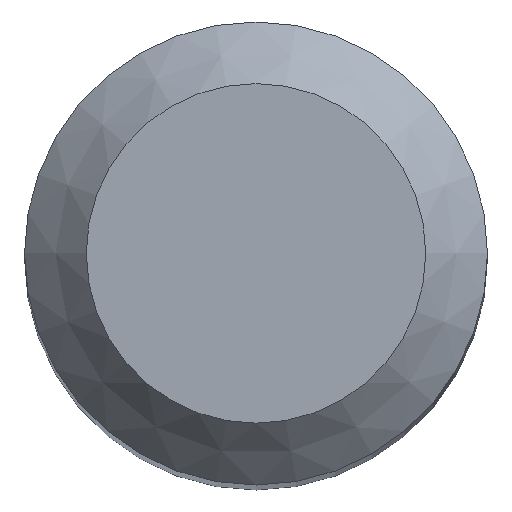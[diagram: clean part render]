
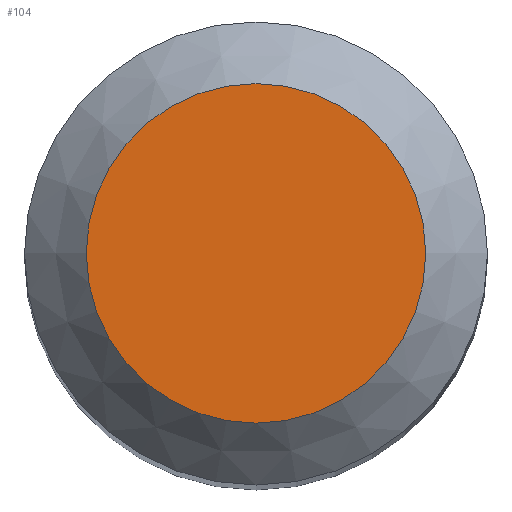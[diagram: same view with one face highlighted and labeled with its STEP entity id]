
A CAD part, top view. The second image highlights one B-rep face of the part: STEP entity #104.
In plain terms, the highlighted planar face has unit normal (0, 0, 1).
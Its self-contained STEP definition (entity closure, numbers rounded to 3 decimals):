
#88=CARTESIAN_POINT('',(2.2,0.0,50.0));
#89=DIRECTION('',(0.0,0.0,1.0));
#90=DIRECTION('',(1.0,0.0,0.0));
#91=AXIS2_PLACEMENT_3D('',#88,#89,#90);
#92=PLANE('',#91);
#93=CARTESIAN_POINT('',(-2.2,0.0,50.));
#94=VERTEX_POINT('',#93);
#95=CARTESIAN_POINT('',(0.0,0.0,50.));
#96=DIRECTION('',(0.0,0.0,-1.0));
#97=DIRECTION('',(-1.0,0.0,0.0));
#98=AXIS2_PLACEMENT_3D('',#95,#96,#97);
#99=CIRCLE('',#98,2.2);
#100=EDGE_CURVE('',#94,#94,#99,.T.);
#101=ORIENTED_EDGE('',*,*,#100,.F.);
#102=EDGE_LOOP('',(#101));
#103=FACE_OUTER_BOUND('',#102,.T.);
#104=ADVANCED_FACE('',(#103),#92,.T.);
